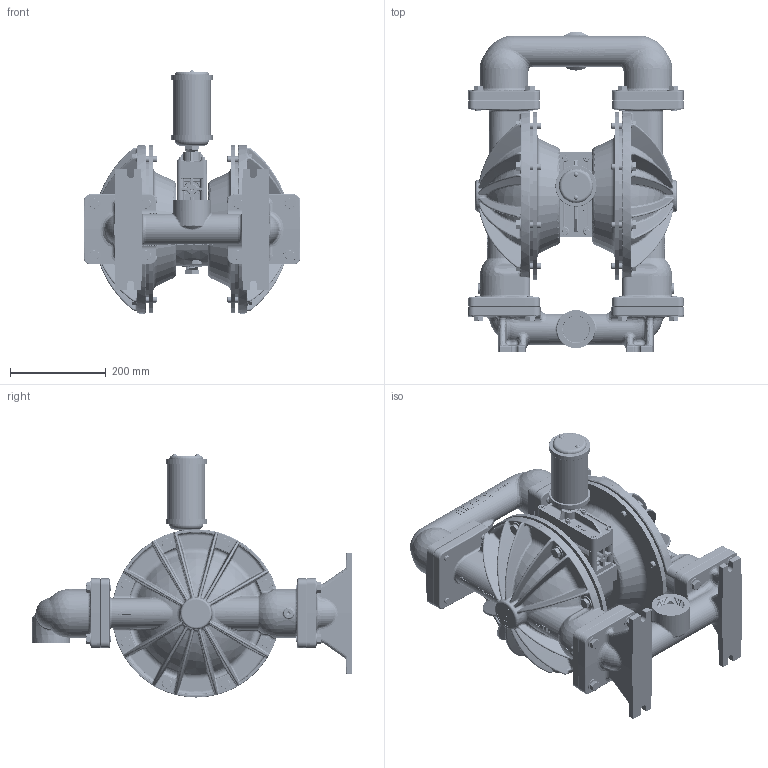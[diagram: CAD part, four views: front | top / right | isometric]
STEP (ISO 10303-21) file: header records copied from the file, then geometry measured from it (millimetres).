
FILE_DESCRIPTION (( 'STEP AP203' ), '1' );
FILE_NAME ('P820_Alum_TOP.STEP', '2022-06-15T06:04:56', ( '' ), ( '' ), 'SwSTEP 2.0', 'SolidWorks 2019', '' );
FILE_SCHEMA (( 'CONFIG_CONTROL_DESIGN' ));
Length unit declared in the file: inch
Products named in the file (1): P820_Alum_TOP
Bounding box: 453.45 x 670.36 x 509.4 mm (x, y, z)
Volume: 27296631.6 mm3; surface area: 1604896 mm2
Topology: 1 solids, 1 shells, 7045 faces, 18203 edges, 11451 vertices
Faces by surface type: plane 3966, bspline 1124, cylinder 1002, cone 494, torus 340, sphere 119
Entity records: 454372 total; most frequent: CARTESIAN_POINT 293310, ORIENTED_EDGE 36298, DIRECTION 29483, EDGE_CURVE 18149, VERTEX_POINT 11434, AXIS2_PLACEMENT_3D 9926, VECTOR 9631, LINE 9631
